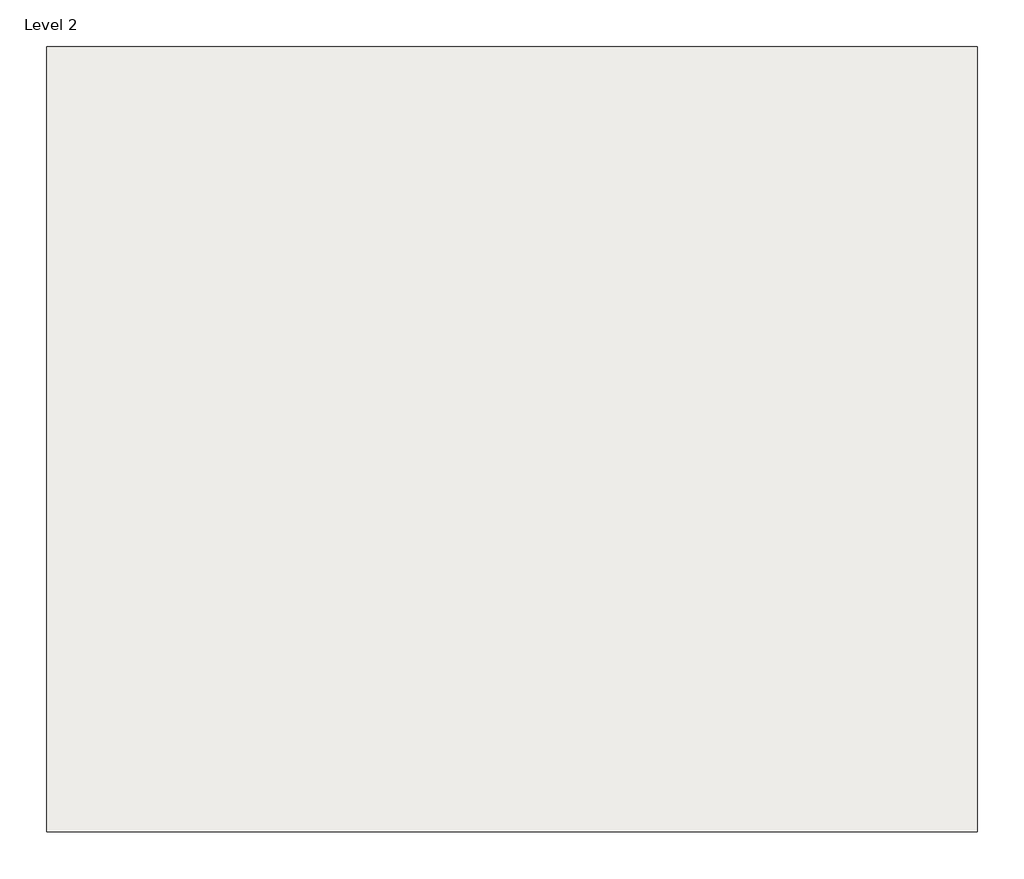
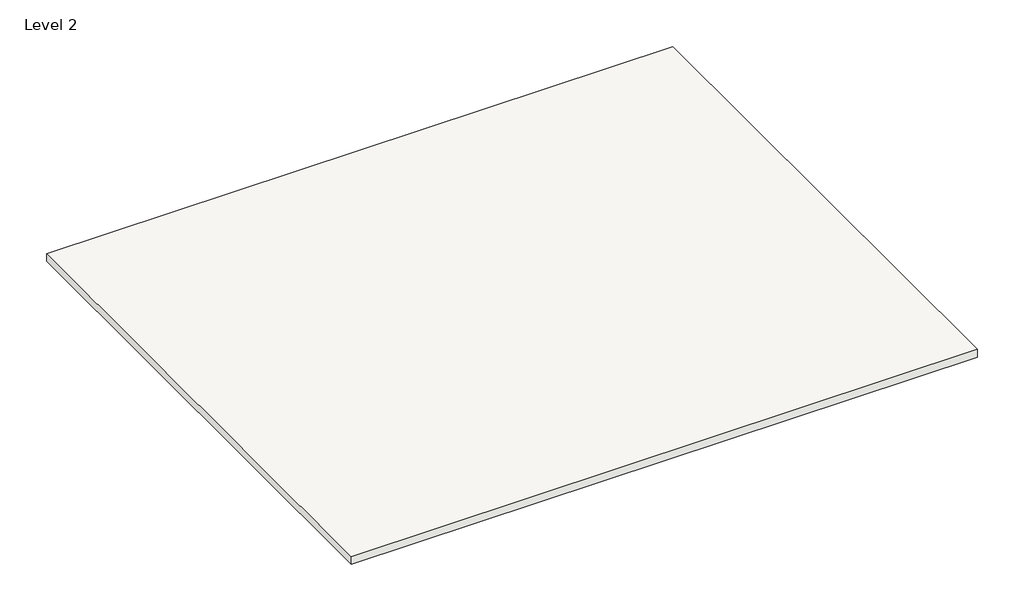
# One storey: 1 slab.
"""IFC4 building model written with IfcOpenShell, lengths in millimetres."""

import ifcopenshell
import ifcopenshell.guid

model = None  # the IFC model being written
_history = None  # IfcOwnerHistory: only IFC2X3 demands one
_inside = {}  # id of a spatial element -> (the spatial element, [elements in it])
_under = {}  # id of a project, library or spatial element -> (it, [spatial elements below it])
_declared = {}  # id of a project -> (the project, [libraries it declares])
_typed = {}  # id of a type object -> (the type object, [elements of that type])
_made_of = {}  # id of a material, layer set ... -> (it, [elements and type objects made of it])


def new_model(schema):
    """Start an empty IFC model of exactly this schema.

    Asked for "IFC4X3", IfcOpenShell would pick the latest addendum, in which some entities
    have other attributes; the version numbers below select the first issue.
    IFC2X3 requires an IfcOwnerHistory on every rooted entity: one is made here for all.
    """
    global model, _history
    if schema == "IFC4X3":
        model = ifcopenshell.file(schema_version=(4, 3, 0, 0))
    else:
        model = ifcopenshell.file(schema=schema)
    _inside.clear()
    _under.clear()
    _declared.clear()
    _typed.clear()
    _made_of.clear()
    _history = None
    if model.schema == "IFC2X3":
        org = make("IfcOrganization", Name="unknown")
        user = make(
            "IfcPersonAndOrganization",
            ThePerson=make("IfcPerson", FamilyName="unknown"),
            TheOrganization=org,
        )
        app = make(
            "IfcApplication",
            ApplicationDeveloper=org,
            Version="unknown",
            ApplicationFullName="unknown",
            ApplicationIdentifier="unknown",
        )
        _history = make(
            "IfcOwnerHistory",
            OwningUser=user,
            OwningApplication=app,
            ChangeAction="ADDED",
            CreationDate=0,
        )
    return model


def make(cls, **values):
    """One entity of the class cls with the attributes given. An attribute that is None is left unset."""
    return model.create_entity(
        cls, **{name: value for name, value in values.items() if value is not None}
    )


def rooted(cls, **values):
    """An entity with a GlobalId (a new one), such as an element, a storey or a relation."""
    return make(cls, GlobalId=ifcopenshell.guid.new(), OwnerHistory=_history, **values)


def si_unit(unit_type, name, prefix=None):
    """IfcSIUnit, for example si_unit("LENGTHUNIT", "METRE", prefix="MILLI")."""
    return make("IfcSIUnit", UnitType=unit_type, Prefix=prefix, Name=name)


def assignment(units):
    """IfcUnitAssignment: the units of a project."""
    return None if units is None else make("IfcUnitAssignment", Units=units)


def point(xyz):
    """IfcCartesianPoint."""
    return None if xyz is None else make("IfcCartesianPoint", Coordinates=xyz)


def direction(xyz):
    """IfcDirection."""
    return None if xyz is None else make("IfcDirection", DirectionRatios=xyz)


def frame(location, z_axis=None, x_axis=None):
    """IfcAxis2Placement3D, a coordinate frame: its origin and axes. An axis left out is left unset."""
    return make(
        "IfcAxis2Placement3D",
        Location=point(location),
        Axis=direction(z_axis),
        RefDirection=direction(x_axis),
    )


def origin():
    """The frame at (0, 0, 0) with its axes left unset."""
    return frame((0.0, 0.0, 0.0))


def place(relative_to, where):
    """IfcLocalPlacement: puts the frame where relative to a parent placement (None: the world)."""
    return make(
        "IfcLocalPlacement", PlacementRelTo=relative_to, RelativePlacement=where
    )


def context(
    kind, dimensions, precision=None, world=None, true_north=None, identifier=None
):
    """IfcGeometricRepresentationContext, for example the 3D "Model" context."""
    return make(
        "IfcGeometricRepresentationContext",
        ContextIdentifier=identifier,
        ContextType=kind,
        CoordinateSpaceDimension=dimensions,
        Precision=precision,
        WorldCoordinateSystem=world,
        TrueNorth=true_north,
    )


def project(units=None, contexts=None):
    """IfcProject with its units and contexts."""
    return rooted(
        "IfcProject",
        Name="project",
        RepresentationContexts=contexts,
        UnitsInContext=assignment(units),
    )


def spatial(cls, under=None, at=None, **own):
    """A site, building, storey or space (cls), placed at a placement, below another one or the project."""
    s = rooted(cls, ObjectPlacement=at, **own)
    if under is not None:
        _under.setdefault(under.id(), (under, []))[1].append(s)
    return s


def polyline(points):
    """IfcPolyline through the points."""
    return make("IfcPolyline", Points=[point(p) for p in points])


def outline(outer, holes=None, kind="AREA"):
    """IfcArbitraryClosedProfileDef: a profile drawn as a closed curve; with holes, ...WithVoids."""
    if holes is None:
        return make("IfcArbitraryClosedProfileDef", ProfileType=kind, OuterCurve=outer)
    return make(
        "IfcArbitraryProfileDefWithVoids",
        ProfileType=kind,
        OuterCurve=outer,
        InnerCurves=holes,
    )


def extrude(swept, where, along, depth):
    """IfcExtrudedAreaSolid: the profile swept, set in the frame where, extruded along a direction by depth."""
    return make(
        "IfcExtrudedAreaSolid",
        SweptArea=swept,
        Position=where,
        ExtrudedDirection=direction(along),
        Depth=depth,
    )


def shape(context_of_items, identifier, shape_type, items):
    """IfcShapeRepresentation: the items that make up one representation, for example the "Body"."""
    return make(
        "IfcShapeRepresentation",
        ContextOfItems=context_of_items,
        RepresentationIdentifier=identifier,
        RepresentationType=shape_type,
        Items=items,
    )


def made_of(thing, what):
    """Note that an element or type object is made of a material, layer set ...; save() writes the relation."""
    if what is not None:
        _made_of.setdefault(what.id(), (what, []))[1].append(thing)
    return thing


def element(
    cls,
    number,
    at=None,
    inside=None,
    cuts=None,
    type_object=None,
    material=None,
    context=None,
    identifier="Body",
    shape_type=None,
    held_by="IfcProductDefinitionShape",
    body=None,
    shapes=None,
    **own,
):
    """One element of the class cls, such as IfcWall. Its Tag is "e" and its number.

    at: its placement. inside: the storey or other place that contains it. cuts: it is an
    opening in that element (IfcRelVoidsElement). A single representation is given by context,
    identifier, shape_type and body (its items); several are given by shapes. held_by: the class
    of the entity that holds the representations. save() writes the other relations.
    """
    e = rooted(cls, Tag="e%d" % number, ObjectPlacement=at, **own)
    if body is not None:
        shapes = [shape(context, identifier, shape_type, body)]
    if shapes is not None:
        e.Representation = make(held_by, Representations=shapes)
    if inside is not None:
        _inside.setdefault(inside.id(), (inside, []))[1].append(e)
    if cuts is not None:
        rooted(
            "IfcRelVoidsElement", RelatingBuildingElement=cuts, RelatedOpeningElement=e
        )
    if type_object is not None:
        _typed.setdefault(type_object.id(), (type_object, []))[1].append(e)
    return made_of(e, material)


def aggregate(whole, parts):
    """IfcRelAggregates: a whole, such as a stair, and the parts it consists of."""
    return rooted("IfcRelAggregates", RelatingObject=whole, RelatedObjects=parts)


def save(model, path):
    """Write the relations noted so far, then the file.

    IfcRelAggregates (storeys below a building ...), IfcRelContainedInSpatialStructure (elements
    in a storey), IfcRelDefinesByType, IfcRelAssociatesMaterial and IfcRelDeclares: one each for
    every whole, place, type object, material and project.
    """
    for whole, parts in _under.values():
        aggregate(whole, parts)
    for where, things in _inside.values():
        rooted(
            "IfcRelContainedInSpatialStructure",
            RelatedElements=things,
            RelatingStructure=where,
        )
    for kind, things in _typed.values():
        rooted("IfcRelDefinesByType", RelatedObjects=things, RelatingType=kind)
    for what, things in _made_of.values():
        rooted("IfcRelAssociatesMaterial", RelatedObjects=things, RelatingMaterial=what)
    for by, libraries in _declared.values():
        rooted("IfcRelDeclares", RelatingContext=by, RelatedDefinitions=libraries)
    model.write(path)


model = new_model("IFC4")

# Units and contexts
model_context = context("Model", 3, world=origin())
ifc_project = project(units=[si_unit("LENGTHUNIT", "METRE", prefix="MILLI")], contexts=[model_context])

# Site, building, storey
site = spatial("IfcSite", under=ifc_project)
building = spatial("IfcBuilding", under=site)
storey = spatial("IfcBuildingStorey", under=building, Name="Level 2", Elevation=2520.0)

# Slab
placement = place(None, origin())
element("IfcSlab", 1, ObjectType="Generic 150mm", at=placement, inside=storey, context=model_context, shape_type="SweptSolid", body=[
    extrude(outline(polyline([(-7810.8634976, -4063.5915678), (-7810.8634976, 5816.4084322), (3899.1365024, 5816.4084322), (3899.1365024, -4063.5915678), (-7810.8634976, -4063.5915678)])), frame((0.0, 0.0, 2370.0), z_axis=(0.0, 0.0, 1.0), x_axis=(1.0, 0.0, 0.0)), (0.0, 0.0, 1.0), 150.0),
])

save(model, "model.ifc")
